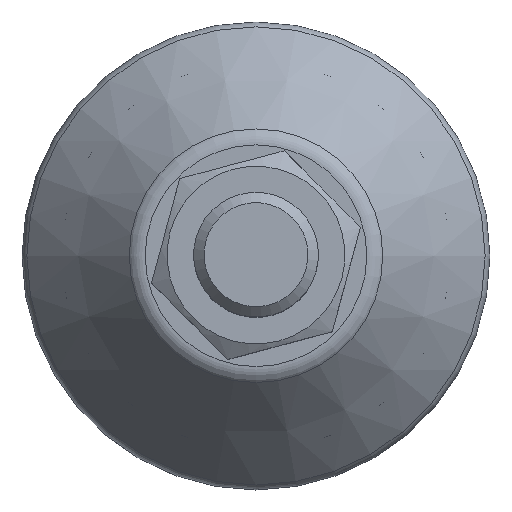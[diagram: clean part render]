
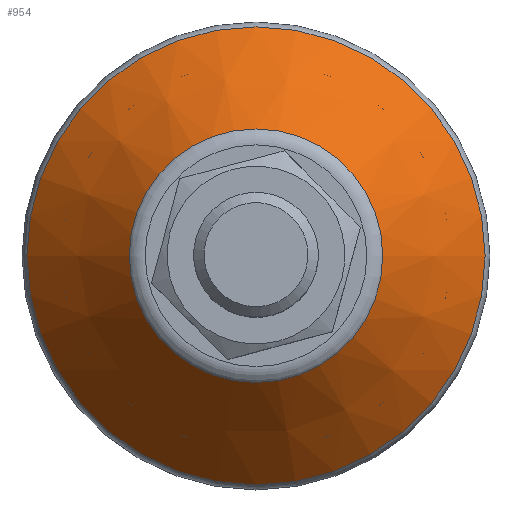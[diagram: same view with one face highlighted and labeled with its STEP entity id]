
A CAD part, top view. The second image highlights one B-rep face of the part: STEP entity #954.
In plain terms, the highlighted conical face has half-angle 40 degrees and reference radius 17.112 mm.
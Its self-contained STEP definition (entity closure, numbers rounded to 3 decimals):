
#954=ADVANCED_FACE('',(#1971,#1973),#1975,.T.);
#1971=FACE_BOUND('',#1972,.T.);
#1972=EDGE_LOOP('',(#2825,#2826));
#1973=FACE_BOUND('',#1974,.T.);
#1974=EDGE_LOOP('',(#2827,#2828));
#1975=CONICAL_SURFACE('',#1976,17.112,0.698);
#1976=AXIS2_PLACEMENT_3D('',#1977,#1978,#1979);
#1977=CARTESIAN_POINT('',(0.,0.,11.422));
#1978=DIRECTION('',(0.,0.,-1.));
#1979=DIRECTION('',(1.,0.,0.));
#2825=ORIENTED_EDGE('',*,*,#3271,.T.);
#2826=ORIENTED_EDGE('',*,*,#3270,.T.);
#2827=ORIENTED_EDGE('',*,*,#3274,.F.);
#2828=ORIENTED_EDGE('',*,*,#3275,.F.);
#3270=EDGE_CURVE('',#3776,#3777,#3778,.T.);
#3271=EDGE_CURVE('',#3777,#3776,#3779,.T.);
#3274=EDGE_CURVE('',#3784,#3785,#3786,.T.);
#3275=EDGE_CURVE('',#3785,#3784,#3787,.T.);
#3776=VERTEX_POINT('',#6169);
#3777=VERTEX_POINT('',#6170);
#3778=CIRCLE('',#6171,22.032);
#3779=CIRCLE('',#6175,22.032);
#3784=VERTEX_POINT('',#6189);
#3785=VERTEX_POINT('',#6190);
#3786=CIRCLE('',#6191,12.191);
#3787=CIRCLE('',#6195,12.191);
#6169=CARTESIAN_POINT('',(-22.032,0.,5.558));
#6170=CARTESIAN_POINT('',(22.032,0.,5.558));
#6171=AXIS2_PLACEMENT_3D('',#6172,#6173,#6174);
#6172=CARTESIAN_POINT('',(0.,0.,5.558));
#6173=DIRECTION('',(0.,0.,1.));
#6174=DIRECTION('',(-1.,0.,0.));
#6175=AXIS2_PLACEMENT_3D('',#6176,#6177,#6178);
#6176=CARTESIAN_POINT('',(0.,0.,5.558));
#6177=DIRECTION('',(0.,0.,1.));
#6178=DIRECTION('',(1.,0.,0.));
#6189=CARTESIAN_POINT('',(-12.191,0.,17.286));
#6190=CARTESIAN_POINT('',(12.191,0.,17.286));
#6191=AXIS2_PLACEMENT_3D('',#6192,#6193,#6194);
#6192=CARTESIAN_POINT('',(0.,0.,17.286));
#6193=DIRECTION('',(0.,0.,1.));
#6194=DIRECTION('',(-1.,0.,0.));
#6195=AXIS2_PLACEMENT_3D('',#6196,#6197,#6198);
#6196=CARTESIAN_POINT('',(0.,0.,17.286));
#6197=DIRECTION('',(0.,0.,1.));
#6198=DIRECTION('',(1.,0.,0.));
